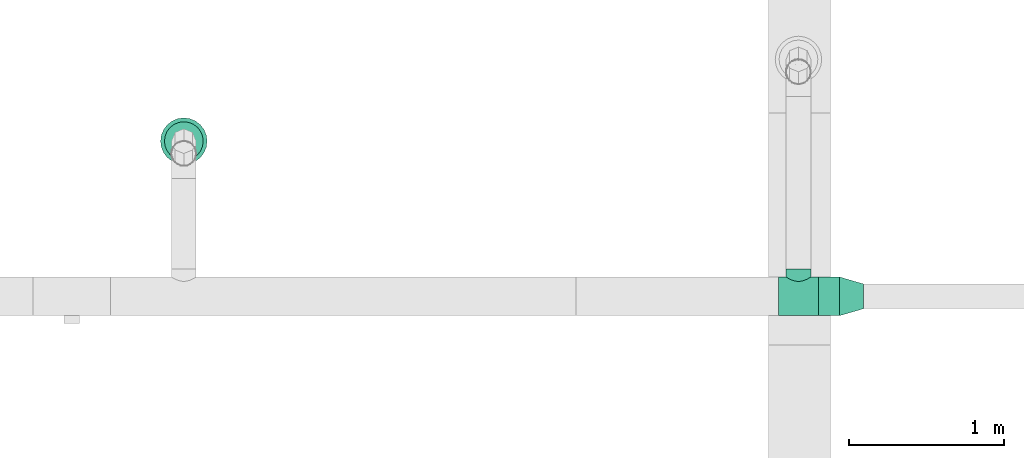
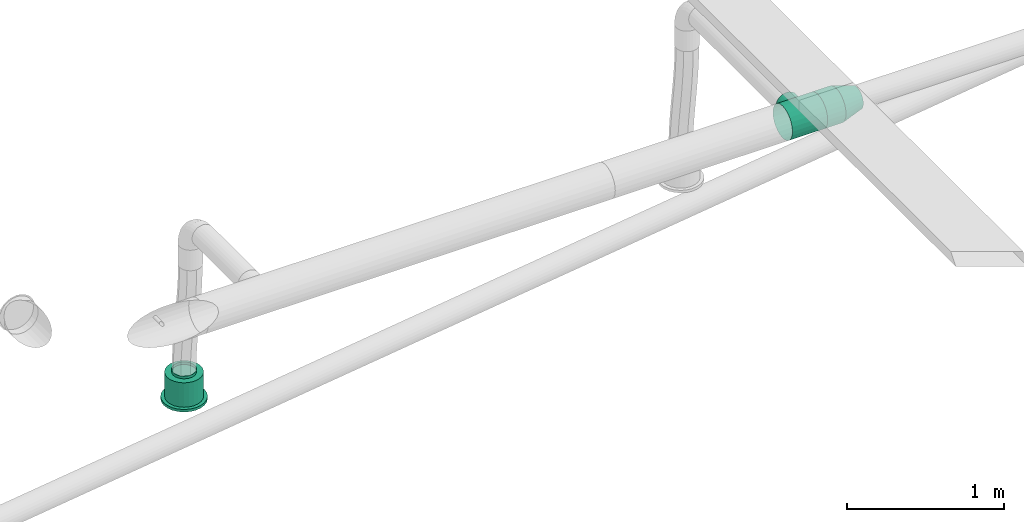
# One storey, part 179 of 374: 2 flow fittings, 1 flow segment, 1 flow terminal.
"""IFC2X3 building model written with IfcOpenShell, lengths in metres."""

from ifc_helpers import new_model, si_unit, direction, origin, place, context, subcontext, project, spatial, open_shell, surface_model, source, transform, mapped, element, save


model = new_model("IFC2X3")

# Units and contexts
model_context = context("Model", 3, precision=1e-05, world=origin(), true_north=direction((-0.4480736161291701, 0.8939966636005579)))
body_context = subcontext(model_context, "Body", "Model", "MODEL_VIEW")
ifc_project = project(units=[si_unit("LENGTHUNIT", "METRE"), si_unit("AREAUNIT", "SQUARE_METRE"), si_unit("VOLUMEUNIT", "CUBIC_METRE"), si_unit("PLANEANGLEUNIT", "RADIAN"), si_unit("THERMODYNAMICTEMPERATUREUNIT", "KELVIN"), si_unit("MASSUNIT", "GRAM", prefix="KILO"), si_unit("TIMEUNIT", "SECOND")], contexts=[model_context])

# Site, building, storey
site_placement = place(None, origin())
site = spatial("IfcSite", under=ifc_project, at=site_placement, Name="Site 1", CompositionType="ELEMENT")
building_placement = place(site_placement, origin())
building = spatial("IfcBuilding", under=site, at=building_placement, Name="Undefined", CompositionType="ELEMENT")
storey_placement = place(building_placement, origin())
storey = spatial("IfcBuildingStorey", under=building, at=storey_placement, Name="Rez de chauss\x8ee", CompositionType="ELEMENT", Elevation=0.0)

# Flow terminal
shared_shape_1 = source(origin(), body_context, "Body", "SurfaceModel", [
    surface_model("IfcFaceBasedSurfaceModel", [(0.0, 0.0, 0.0), (0.03915785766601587, 0.0, 0.0), (0.03915785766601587, 0.020000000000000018, 0.0), (3.552713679e-15, 0.020000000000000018, 0.0), (0.07698144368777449, 0.0, -0.010134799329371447), (0.07698144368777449, 0.020000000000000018, -0.010134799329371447), (0.11089314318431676, 0.0, -0.02971372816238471), (0.11089314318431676, 0.020000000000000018, -0.02971372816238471), (0.13858192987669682, 0.0, -0.05740251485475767), (0.13858192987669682, 0.020000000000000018, -0.05740251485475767), (0.15816085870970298, 0.0, -0.09131421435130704), (0.15816085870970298, 0.020000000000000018, -0.09131421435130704), (0.16829565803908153, 0.0, -0.12913780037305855), (0.16829565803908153, 0.020000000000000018, -0.12913780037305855), (0.16829565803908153, 0.0, -0.16829565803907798), (0.16829565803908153, 0.020000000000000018, -0.16829565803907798), (0.15816085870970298, 0.0, -0.20611924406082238), (0.15816085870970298, 0.020000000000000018, -0.20611924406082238), (0.13858192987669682, 0.0, -0.24003094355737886), (0.13858192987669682, 0.020000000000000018, -0.24003094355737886), (0.11089314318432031, 0.0, -0.2677197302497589), (0.11089314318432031, 0.020000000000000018, -0.2677197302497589), (0.07698144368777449, 0.0, -0.2872986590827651), (0.07698144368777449, 0.020000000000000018, -0.2872986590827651), (0.039157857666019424, 0.0, -0.29743345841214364), (0.039157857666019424, 0.020000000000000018, -0.29743345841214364), (3.552713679e-15, 0.0, -0.29743345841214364), (3.552713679e-15, 0.020000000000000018, -0.29743345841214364), (-0.03782358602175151, 0.0, -0.2872986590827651), (-0.03782358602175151, 0.020000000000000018, -0.2872986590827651), (-0.07173528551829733, 0.0, -0.2677197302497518), (-0.07173528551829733, 0.020000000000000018, -0.2677197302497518), (-0.0994240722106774, 0.0, -0.24003094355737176), (-0.0994240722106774, 0.020000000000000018, -0.24003094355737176), (-0.11900300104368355, 0.0, -0.2061192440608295), (-0.11900300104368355, 0.020000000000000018, -0.2061192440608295), (-0.1291378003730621, 0.0, -0.16829565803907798), (-0.1291378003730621, 0.020000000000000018, -0.16829565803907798), (-0.1291378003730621, 0.0, -0.12913780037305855), (-0.1291378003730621, 0.020000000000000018, -0.12913780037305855), (-0.11900300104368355, 0.0, -0.09131421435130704), (-0.11900300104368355, 0.020000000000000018, -0.09131421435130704), (-0.0994240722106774, 0.0, -0.05740251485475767), (-0.0994240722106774, 0.020000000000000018, -0.05740251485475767), (-0.07173528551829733, 0.0, -0.029713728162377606), (-0.07173528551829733, 0.020000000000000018, -0.029713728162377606), (-0.03782358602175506, 0.0, -0.010134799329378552), (-0.03782358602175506, 0.020000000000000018, -0.010134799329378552), (0.019578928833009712, 0.0, -0.14871672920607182), (0.019578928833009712, 0.020000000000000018, -0.14871672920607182), (0.003263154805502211, 0.020000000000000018, -0.02478612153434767), (0.035894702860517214, 0.020000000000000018, -0.02478612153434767), (0.035894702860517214, 0.20999999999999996, -0.02478612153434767), (0.003263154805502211, 0.20999999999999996, -0.02478612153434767), (0.06741435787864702, 0.020000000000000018, -0.033231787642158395), (0.06741435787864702, 0.20999999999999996, -0.033231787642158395), (0.0956741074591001, 0.020000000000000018, -0.04954756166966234), (0.0956741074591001, 0.20999999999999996, -0.04954756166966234), (0.11874809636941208, 0.020000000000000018, -0.07262155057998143), (0.11874809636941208, 0.20999999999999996, -0.07262155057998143), (0.13506387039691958, 0.020000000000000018, -0.10088130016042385), (0.13506387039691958, 0.20999999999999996, -0.10088130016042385), (0.1435095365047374, 0.020000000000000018, -0.13240095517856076), (0.1435095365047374, 0.20999999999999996, -0.13240095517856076), (0.1435095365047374, 0.020000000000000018, -0.16503250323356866), (0.1435095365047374, 0.20999999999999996, -0.16503250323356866), (0.13506387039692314, 0.020000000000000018, -0.19655215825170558), (0.13506387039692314, 0.20999999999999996, -0.19655215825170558), (0.11874809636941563, 0.020000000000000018, -0.2248119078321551), (0.11874809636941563, 0.20999999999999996, -0.2248119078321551), (0.09567410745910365, 0.020000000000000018, -0.24788589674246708), (0.09567410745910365, 0.20999999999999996, -0.24788589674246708), (0.06741435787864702, 0.020000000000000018, -0.26420167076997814), (0.06741435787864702, 0.20999999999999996, -0.26420167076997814), (0.035894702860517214, 0.020000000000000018, -0.27264733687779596), (0.035894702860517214, 0.20999999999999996, -0.27264733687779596), (0.0032631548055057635, 0.020000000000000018, -0.27264733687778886), (0.0032631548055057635, 0.20999999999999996, -0.27264733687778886), (-0.028256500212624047, 0.020000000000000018, -0.26420167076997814), (-0.028256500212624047, 0.20999999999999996, -0.26420167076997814), (-0.05651624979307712, 0.020000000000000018, -0.2478858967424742), (-0.05651624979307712, 0.20999999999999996, -0.2478858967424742), (-0.07959023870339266, 0.020000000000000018, -0.2248119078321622), (-0.07959023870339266, 0.20999999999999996, -0.2248119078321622), (-0.09590601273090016, 0.020000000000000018, -0.19655215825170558), (-0.09590601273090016, 0.20999999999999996, -0.19655215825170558), (-0.10435167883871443, 0.020000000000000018, -0.16503250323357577), (-0.10435167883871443, 0.20999999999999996, -0.16503250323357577), (-0.10435167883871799, 0.020000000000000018, -0.13240095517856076), (-0.10435167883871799, 0.20999999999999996, -0.13240095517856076), (-0.09590601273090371, 0.020000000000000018, -0.10088130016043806), (-0.09590601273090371, 0.20999999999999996, -0.10088130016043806), (-0.07959023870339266, 0.020000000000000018, -0.07262155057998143), (-0.07959023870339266, 0.20999999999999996, -0.07262155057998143), (-0.056516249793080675, 0.020000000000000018, -0.04954756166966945), (-0.056516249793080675, 0.20999999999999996, -0.04954756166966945), (-0.028256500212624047, 0.020000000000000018, -0.033231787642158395), (-0.028256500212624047, 0.20999999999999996, -0.033231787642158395), (0.019578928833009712, 0.20999999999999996, -0.14871672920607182), (0.009136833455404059, 0.20999999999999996, -0.06940114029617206), (0.030021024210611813, 0.20999999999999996, -0.06940114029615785), (0.030021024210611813, 0.22999999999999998, -0.06940114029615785), (0.009136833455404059, 0.22999999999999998, -0.06940114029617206), (0.05019360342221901, 0.20999999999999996, -0.07480636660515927), (0.05019360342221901, 0.22999999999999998, -0.07480636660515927), (0.06827984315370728, 0.20999999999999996, -0.08524846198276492), (0.06827984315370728, 0.22999999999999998, -0.08524846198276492), (0.0830471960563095, 0.20999999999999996, -0.10001581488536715), (0.0830471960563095, 0.22999999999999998, -0.10001581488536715), (0.0934892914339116, 0.20999999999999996, -0.11810205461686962), (0.0934892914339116, 0.22999999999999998, -0.11810205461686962), (0.09889451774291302, 0.20999999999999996, -0.13827463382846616), (0.09889451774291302, 0.22999999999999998, -0.13827463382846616), (0.09889451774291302, 0.20999999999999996, -0.15915882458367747), (0.09889451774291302, 0.22999999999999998, -0.15915882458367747), (0.09348929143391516, 0.20999999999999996, -0.179331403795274), (0.09348929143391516, 0.22999999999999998, -0.179331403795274), (0.0830471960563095, 0.20999999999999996, -0.19741764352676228), (0.0830471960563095, 0.22999999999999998, -0.19741764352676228), (0.06827984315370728, 0.20999999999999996, -0.2121849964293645), (0.06827984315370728, 0.22999999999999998, -0.2121849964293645), (0.05019360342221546, 0.20999999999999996, -0.22262709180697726), (0.05019360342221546, 0.22999999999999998, -0.22262709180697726), (0.030021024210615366, 0.20999999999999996, -0.22803231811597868), (0.030021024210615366, 0.22999999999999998, -0.22803231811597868), (0.009136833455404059, 0.20999999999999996, -0.22803231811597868), (0.009136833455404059, 0.22999999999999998, -0.22803231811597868), (-0.011035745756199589, 0.20999999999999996, -0.22262709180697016), (-0.011035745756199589, 0.22999999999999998, -0.22262709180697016), (-0.0291219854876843, 0.20999999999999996, -0.2121849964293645), (-0.0291219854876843, 0.22999999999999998, -0.2121849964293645), (-0.043889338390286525, 0.20999999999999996, -0.19741764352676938), (-0.043889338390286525, 0.22999999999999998, -0.19741764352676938), (-0.05433143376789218, 0.20999999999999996, -0.17933140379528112), (-0.05433143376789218, 0.22999999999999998, -0.17933140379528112), (-0.05973666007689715, 0.20999999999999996, -0.15915882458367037), (-0.05973666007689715, 0.22999999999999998, -0.15915882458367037), (-0.0597366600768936, 0.20999999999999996, -0.13827463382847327), (-0.0597366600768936, 0.22999999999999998, -0.13827463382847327), (-0.05433143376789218, 0.20999999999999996, -0.11810205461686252), (-0.05433143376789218, 0.22999999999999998, -0.11810205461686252), (-0.043889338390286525, 0.20999999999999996, -0.10001581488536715), (-0.043889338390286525, 0.22999999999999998, -0.10001581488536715), (-0.02912198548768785, 0.20999999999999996, -0.08524846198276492), (-0.02912198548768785, 0.22999999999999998, -0.08524846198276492), (-0.011035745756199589, 0.20999999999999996, -0.07480636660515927), (-0.011035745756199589, 0.22999999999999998, -0.07480636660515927)], [open_shell([[[0, 1, 2, 3]], [[1, 4, 5, 2]], [[4, 6, 7, 5]], [[6, 8, 9, 7]], [[8, 10, 11, 9]], [[10, 12, 13, 11]], [[12, 14, 15, 13]], [[14, 16, 17, 15]], [[16, 18, 19, 17]], [[18, 20, 21, 19]], [[20, 22, 23, 21]], [[22, 24, 25, 23]], [[24, 26, 27, 25]], [[26, 28, 29, 27]], [[28, 30, 31, 29]], [[30, 32, 33, 31]], [[32, 34, 35, 33]], [[34, 36, 37, 35]], [[36, 38, 39, 37]], [[38, 40, 41, 39]], [[40, 42, 43, 41]], [[42, 44, 45, 43]], [[44, 46, 47, 45]], [[46, 0, 3, 47]], [[48, 1, 0]], [[48, 4, 1]], [[48, 6, 4]], [[48, 8, 6]], [[48, 10, 8]], [[48, 12, 10]], [[48, 14, 12]], [[48, 16, 14]], [[48, 18, 16]], [[48, 20, 18]], [[48, 22, 20]], [[48, 24, 22]], [[48, 26, 24]], [[48, 28, 26]], [[48, 30, 28]], [[48, 32, 30]], [[48, 34, 32]], [[48, 36, 34]], [[48, 38, 36]], [[48, 40, 38]], [[48, 42, 40]], [[48, 44, 42]], [[48, 46, 44]], [[48, 0, 46]], [[49, 47, 3]], [[49, 45, 47]], [[49, 43, 45]], [[49, 41, 43]], [[49, 39, 41]], [[49, 37, 39]], [[49, 35, 37]], [[49, 33, 35]], [[49, 31, 33]], [[49, 29, 31]], [[49, 27, 29]], [[49, 25, 27]], [[49, 23, 25]], [[49, 21, 23]], [[49, 19, 21]], [[49, 17, 19]], [[49, 15, 17]], [[49, 13, 15]], [[49, 11, 13]], [[49, 9, 11]], [[49, 7, 9]], [[49, 5, 7]], [[49, 2, 5]], [[49, 3, 2]], [[50, 51, 52, 53]], [[51, 54, 55, 52]], [[54, 56, 57, 55]], [[56, 58, 59, 57]], [[58, 60, 61, 59]], [[60, 62, 63, 61]], [[62, 64, 65, 63]], [[64, 66, 67, 65]], [[66, 68, 69, 67]], [[68, 70, 71, 69]], [[70, 72, 73, 71]], [[72, 74, 75, 73]], [[74, 76, 77, 75]], [[76, 78, 79, 77]], [[78, 80, 81, 79]], [[80, 82, 83, 81]], [[82, 84, 85, 83]], [[84, 86, 87, 85]], [[86, 88, 89, 87]], [[88, 90, 91, 89]], [[90, 92, 93, 91]], [[92, 94, 95, 93]], [[94, 96, 97, 95]], [[96, 50, 53, 97]], [[49, 51, 50]], [[49, 54, 51]], [[49, 56, 54]], [[49, 58, 56]], [[49, 60, 58]], [[49, 62, 60]], [[49, 64, 62]], [[49, 66, 64]], [[49, 68, 66]], [[49, 70, 68]], [[49, 72, 70]], [[49, 74, 72]], [[49, 76, 74]], [[49, 78, 76]], [[49, 80, 78]], [[49, 82, 80]], [[49, 84, 82]], [[49, 86, 84]], [[49, 88, 86]], [[49, 90, 88]], [[49, 92, 90]], [[49, 94, 92]], [[49, 96, 94]], [[49, 50, 96]], [[98, 97, 53]], [[98, 95, 97]], [[98, 93, 95]], [[98, 91, 93]], [[98, 89, 91]], [[98, 87, 89]], [[98, 85, 87]], [[98, 83, 85]], [[98, 81, 83]], [[98, 79, 81]], [[98, 77, 79]], [[98, 75, 77]], [[98, 73, 75]], [[98, 71, 73]], [[98, 69, 71]], [[98, 67, 69]], [[98, 65, 67]], [[98, 63, 65]], [[98, 61, 63]], [[98, 59, 61]], [[98, 57, 59]], [[98, 55, 57]], [[98, 52, 55]], [[98, 53, 52]], [[99, 100, 101, 102]], [[100, 103, 104, 101]], [[103, 105, 106, 104]], [[105, 107, 108, 106]], [[107, 109, 110, 108]], [[109, 111, 112, 110]], [[111, 113, 114, 112]], [[113, 115, 116, 114]], [[115, 117, 118, 116]], [[117, 119, 120, 118]], [[119, 121, 122, 120]], [[121, 123, 124, 122]], [[123, 125, 126, 124]], [[125, 127, 128, 126]], [[127, 129, 130, 128]], [[129, 131, 132, 130]], [[131, 133, 134, 132]], [[133, 135, 136, 134]], [[135, 137, 138, 136]], [[137, 139, 140, 138]], [[139, 141, 142, 140]], [[141, 143, 144, 142]], [[143, 145, 146, 144]], [[145, 99, 102, 146]]])]),
])
flow_terminal_placement = place(storey_placement, origin())
element("IfcFlowTerminal", 1, at=flow_terminal_placement, inside=storey, Name="Air diffuseur - bouche", ObjectType="Air diffuseur - bouche", context=body_context, shape_type="MappedRepresentation", body=[
    mapped(shared_shape_1, transform((53.396610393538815, 23.508886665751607, 2.38), x_axis=(0.9914448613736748, 0.13052619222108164, 0.0), y_axis=(0.0, 0.0, 1.0), z_axis=(0.13052619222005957, -0.9914448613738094, 0.0))),
])

# Flow segment
shared_shape_2 = source(origin(), body_context, "Body", "SurfaceModel", [
    surface_model("IfcFaceBasedSurfaceModel", [(0.0, 0.03263154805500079, 0.0), (0.0, 0.0, 0.0), (0.13500000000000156, -7.105427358e-15, 8.8817842e-16), (0.13500000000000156, 0.03263154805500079, 8.8817842e-16), (0.0, -0.031519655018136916, -0.008445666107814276), (0.13500000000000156, -0.03151965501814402, -0.008445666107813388), (0.0, -0.05977940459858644, -0.024761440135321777), (0.13500000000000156, -0.05977940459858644, -0.02476144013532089), (0.0, -0.08285339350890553, -0.047835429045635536), (0.13500000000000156, -0.08285339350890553, -0.04783542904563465), (0.0, -0.09916916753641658, -0.07609517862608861), (0.13500000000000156, -0.09916916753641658, -0.07609517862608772), (0.0, -0.1076148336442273, -0.10761483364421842), (0.13500000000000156, -0.10761483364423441, -0.10761483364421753), (0.0, -0.1076148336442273, -0.14024638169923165), (0.13500000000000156, -0.1076148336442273, -0.14024638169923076), (0.0, -0.09916916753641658, -0.17176603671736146), (0.13500000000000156, -0.09916916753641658, -0.17176603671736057), (0.0, -0.08285339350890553, -0.2000257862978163), (0.13500000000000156, -0.08285339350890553, -0.20002578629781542), (0.0, -0.059779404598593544, -0.22309977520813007), (0.13500000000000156, -0.05977940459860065, -0.2230997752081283), (0.0, -0.03151965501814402, -0.23941554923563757), (0.13500000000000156, -0.03151965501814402, -0.23941554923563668), (0.0, -1.4210854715e-14, -0.24786121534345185), (0.13500000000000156, -1.4210854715e-14, -0.24786121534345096), (0.0, 0.03263154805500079, -0.24786121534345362), (0.13500000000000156, 0.03263154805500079, -0.24786121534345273), (0.0, 0.0641512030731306, -0.23941554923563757), (0.13500000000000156, 0.0641512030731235, -0.23941554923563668), (0.0, 0.09241095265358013, -0.22309977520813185), (0.13500000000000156, 0.09241095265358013, -0.22309977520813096), (0.0, 0.11548494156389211, -0.2000257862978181), (0.13500000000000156, 0.11548494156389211, -0.2000257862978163), (0.0, 0.13180071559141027, -0.171766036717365), (0.13500000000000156, 0.13180071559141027, -0.17176603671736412), (0.0, 0.140246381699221, -0.1402463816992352), (0.13500000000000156, 0.14024638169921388, -0.14024638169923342), (0.0, 0.140246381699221, -0.10761483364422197), (0.13500000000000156, 0.140246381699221, -0.10761483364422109), (0.0, 0.13180071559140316, -0.07609517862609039), (0.13500000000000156, 0.13180071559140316, -0.07609517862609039), (0.0, 0.11548494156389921, -0.04783542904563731), (0.13500000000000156, 0.11548494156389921, -0.047835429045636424), (0.0, 0.09241095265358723, -0.024761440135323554), (0.13500000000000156, 0.09241095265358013, -0.024761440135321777), (0.0, 0.06415120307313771, -0.008445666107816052), (0.13500000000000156, 0.06415120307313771, -0.008445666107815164)], [open_shell([[[0, 1, 2, 3]], [[1, 4, 5, 2]], [[4, 6, 7, 5]], [[6, 8, 9, 7]], [[8, 10, 11, 9]], [[10, 12, 13, 11]], [[12, 14, 15, 13]], [[14, 16, 17, 15]], [[16, 18, 19, 17]], [[18, 20, 21, 19]], [[20, 22, 23, 21]], [[22, 24, 25, 23]], [[24, 26, 27, 25]], [[26, 28, 29, 27]], [[28, 30, 31, 29]], [[30, 32, 33, 31]], [[32, 34, 35, 33]], [[34, 36, 37, 35]], [[36, 38, 39, 37]], [[38, 40, 41, 39]], [[40, 42, 43, 41]], [[42, 44, 45, 43]], [[44, 46, 47, 45]], [[46, 0, 3, 47]]])]),
])
flow_segment_placement = place(storey_placement, origin())
element("IfcFlowSegment", 2, at=flow_segment_placement, inside=storey, Name="Manchon", ObjectType="Manchon", context=body_context, shape_type="MappedRepresentation", body=[
    mapped(shared_shape_2, transform((57.49100041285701, 22.625523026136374, 3.920740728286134), x_axis=(1.0, 0.0, 0.0), y_axis=(0.0, 0.9914448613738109, 0.1305261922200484), z_axis=(0.0, -0.1305261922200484, 0.9914448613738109))),
])

# Flow fittings
shared_shape_3 = source(origin(), body_context, "Body", "SurfaceModel", [
    surface_model("IfcFaceBasedSurfaceModel", [(0.0, 0.03263154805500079, 0.0), (0.0, 0.0, 0.0), (0.2599999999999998, -7.105427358e-15, 0.0), (0.2599999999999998, 0.03263154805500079, 0.0), (0.0, -0.031519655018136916, -0.008445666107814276), (0.2599999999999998, -0.031519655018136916, -0.008445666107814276), (0.0, -0.05977940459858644, -0.024761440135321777), (0.2599999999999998, -0.05977940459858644, -0.024761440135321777), (0.0, -0.08285339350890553, -0.047835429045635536), (0.2599999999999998, -0.08285339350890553, -0.047835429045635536), (0.0, -0.09916916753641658, -0.07609517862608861), (0.2599999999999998, -0.09916916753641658, -0.07609517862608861), (0.0, -0.1076148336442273, -0.10761483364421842), (0.2599999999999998, -0.1076148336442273, -0.10761483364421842), (0.0, -0.1076148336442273, -0.14024638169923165), (0.2599999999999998, -0.1076148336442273, -0.14024638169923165), (0.0, -0.09916916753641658, -0.17176603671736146), (0.2599999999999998, -0.09916916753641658, -0.17176603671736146), (0.0, -0.08285339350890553, -0.2000257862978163), (0.2599999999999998, -0.08285339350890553, -0.2000257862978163), (0.0, -0.059779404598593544, -0.22309977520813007), (0.2599999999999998, -0.059779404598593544, -0.22309977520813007), (0.0, -0.03151965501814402, -0.23941554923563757), (0.2599999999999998, -0.03151965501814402, -0.23941554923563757), (0.0, -1.4210854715e-14, -0.24786121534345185), (0.2599999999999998, -1.4210854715e-14, -0.24786121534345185), (0.0, 0.03263154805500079, -0.24786121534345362), (0.2599999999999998, 0.03263154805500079, -0.24786121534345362), (0.0, 0.0641512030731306, -0.23941554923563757), (0.2599999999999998, 0.0641512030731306, -0.23941554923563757), (0.0, 0.09241095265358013, -0.22309977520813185), (0.2599999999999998, 0.09241095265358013, -0.22309977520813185), (0.0, 0.11548494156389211, -0.2000257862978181), (0.2599999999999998, 0.11548494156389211, -0.2000257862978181), (0.0, 0.13180071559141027, -0.171766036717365), (0.2599999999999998, 0.13180071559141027, -0.171766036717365), (0.0, 0.140246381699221, -0.1402463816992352), (0.2599999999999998, 0.140246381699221, -0.1402463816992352), (0.0, 0.140246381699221, -0.10761483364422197), (0.2599999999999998, 0.140246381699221, -0.10761483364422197), (0.0, 0.13180071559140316, -0.07609517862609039), (0.2599999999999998, 0.13180071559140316, -0.07609517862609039), (0.0, 0.11548494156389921, -0.04783542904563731), (0.2599999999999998, 0.11548494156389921, -0.04783542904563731), (0.0, 0.09241095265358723, -0.024761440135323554), (0.2599999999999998, 0.09241095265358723, -0.024761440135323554), (0.0, 0.06415120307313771, -0.008445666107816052), (0.2599999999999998, 0.06415120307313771, -0.008445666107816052), (0.20999999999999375, 0.14024638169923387, -0.14024638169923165), (0.2072740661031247, 0.1358317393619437, -0.1605493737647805), (0.2072740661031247, 0.18711601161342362, -0.16730107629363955), (0.20999999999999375, 0.18981862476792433, -0.14677269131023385), (0.19928203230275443, 0.12850875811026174, -0.17904625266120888), (0.19928203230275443, 0.1845975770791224, -0.1864304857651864), (0.18656854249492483, 0.11944596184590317, -0.19456462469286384), (0.18656854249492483, 0.1824349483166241, -0.20285728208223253), (0.1699999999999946, 0.11042580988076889, -0.20620029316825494), (0.1699999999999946, 0.1807755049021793, -0.2154620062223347), (0.15070552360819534, 0.10364225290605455, -0.2133682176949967), (0.15070552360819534, 0.1797323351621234, -0.22338566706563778), (0.12999999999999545, 0.10109884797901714, -0.21578282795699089), (0.12999999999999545, 0.17937652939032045, -0.22608828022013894), (0.10929447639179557, 0.10364225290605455, -0.2133682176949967), (0.10929447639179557, 0.1797323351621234, -0.22338566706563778), (0.0899999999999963, 0.11042580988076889, -0.20620029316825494), (0.0899999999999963, 0.1807755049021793, -0.2154620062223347), (0.07343145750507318, 0.11944596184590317, -0.19456462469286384), (0.07343145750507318, 0.1824349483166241, -0.20285728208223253), (0.06071796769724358, 0.12850875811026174, -0.17904625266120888), (0.06071796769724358, 0.1845975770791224, -0.1864304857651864), (0.052725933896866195, 0.1358317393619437, -0.1605493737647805), (0.052725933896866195, 0.18711601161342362, -0.16730107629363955), (0.04999999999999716, 0.14024638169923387, -0.14024638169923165), (0.04999999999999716, 0.18981862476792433, -0.14677269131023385), (0.052725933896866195, 0.14123696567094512, -0.11949260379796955), (0.052725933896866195, 0.19252123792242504, -0.12624430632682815), (0.06071796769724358, 0.13895085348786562, -0.09973066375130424), (0.06071796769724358, 0.19503967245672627, -0.10711489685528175), (0.07343145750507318, 0.13421331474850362, -0.08239544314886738), (0.07343145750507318, 0.19720230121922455, -0.09068810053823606), (0.0899999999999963, 0.12851204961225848, -0.06882166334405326), (0.0899999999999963, 0.1988617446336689, -0.07808337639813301), (0.10929447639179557, 0.12381483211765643, -0.060142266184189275), (0.10929447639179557, 0.19990491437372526, -0.07015971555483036), (0.12999999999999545, 0.12198303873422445, -0.057151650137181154), (0.12999999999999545, 0.20026072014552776, -0.0674571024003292), (0.15070552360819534, 0.12381483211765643, -0.060142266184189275), (0.15070552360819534, 0.19990491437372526, -0.07015971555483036), (0.1699999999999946, 0.12851204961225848, -0.06882166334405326), (0.1699999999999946, 0.1988617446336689, -0.07808337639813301), (0.18656854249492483, 0.13421331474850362, -0.08239544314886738), (0.18656854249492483, 0.19720230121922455, -0.09068810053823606), (0.19928203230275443, 0.13895085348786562, -0.09973066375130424), (0.19928203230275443, 0.19503967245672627, -0.10711489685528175), (0.2072740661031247, 0.14123696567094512, -0.11949260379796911), (0.2072740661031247, 0.19252123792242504, -0.12624430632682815)], [open_shell([[[0, 1, 2, 3]], [[1, 4, 5, 2]], [[4, 6, 7, 5]], [[6, 8, 9, 7]], [[8, 10, 11, 9]], [[10, 12, 13, 11]], [[12, 14, 15, 13]], [[14, 16, 17, 15]], [[16, 18, 19, 17]], [[18, 20, 21, 19]], [[20, 22, 23, 21]], [[22, 24, 25, 23]], [[24, 26, 27, 25]], [[26, 28, 29, 27]], [[28, 30, 31, 29]], [[30, 32, 33, 31]], [[32, 34, 35, 33]], [[34, 36, 37, 35]], [[36, 38, 39, 37]], [[38, 40, 41, 39]], [[40, 42, 43, 41]], [[42, 44, 45, 43]], [[44, 46, 47, 45]], [[46, 0, 3, 47]], [[48, 49, 50, 51]], [[49, 52, 53, 50]], [[52, 54, 55, 53]], [[54, 56, 57, 55]], [[56, 58, 59, 57]], [[58, 60, 61, 59]], [[60, 62, 63, 61]], [[62, 64, 65, 63]], [[64, 66, 67, 65]], [[66, 68, 69, 67]], [[68, 70, 71, 69]], [[70, 72, 73, 71]], [[72, 74, 75, 73]], [[74, 76, 77, 75]], [[76, 78, 79, 77]], [[78, 80, 81, 79]], [[80, 82, 83, 81]], [[82, 84, 85, 83]], [[84, 86, 87, 85]], [[86, 88, 89, 87]], [[88, 90, 91, 89]], [[90, 92, 93, 91]], [[92, 94, 95, 93]], [[94, 48, 51, 95]]])]),
])
flow_fitting_1_placement = place(storey_placement, origin())
element("IfcFlowFitting", 3, at=flow_fitting_1_placement, inside=storey, Name="Pièce en té 90°", ObjectType="Pièce en té 90°", context=body_context, shape_type="MappedRepresentation", body=[
    mapped(shared_shape_3, transform((57.49100041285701, 22.625523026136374, 3.679259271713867), x_axis=(-1.0, 0.0, 0.0), y_axis=(0.0, 0.9914448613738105, -0.13052619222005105), z_axis=(9.56658874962e-13, -0.13052619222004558, -0.9914448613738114))),
])
shared_shape_4 = source(origin(), body_context, "Body", "SurfaceModel", [
    surface_model("IfcFaceBasedSurfaceModel", [(0.001194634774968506, 0.0326096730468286, -1.776356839e-15), (0.0, 0.0, 0.0), (0.1604400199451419, 2.22044605e-16, 1.776356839e-15), (0.16120458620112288, 0.020870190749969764, 3.552713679e-15), (0.001194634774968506, -0.03158456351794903, -0.008112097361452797), (0.16120458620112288, -0.020214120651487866, -0.0051917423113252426), (0.0046971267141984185, -0.05999158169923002, -0.023783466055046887), (0.1634461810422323, -0.038394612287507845, -0.015221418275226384), (0.010268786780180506, -0.08328516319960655, -0.045946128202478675), (0.16701204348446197, -0.05330250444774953, -0.0294055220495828), (0.017529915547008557, -0.09987788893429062, -0.07308973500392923), (0.17165916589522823, -0.0639218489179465, -0.04677743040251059), (0.02598567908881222, -0.10863899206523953, -0.10336449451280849), (0.17707085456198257, -0.06952895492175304, -0.06615327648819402), (0.03505983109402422, -0.10897141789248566, -0.13470723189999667), (0.18287831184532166, -0.06974170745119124, -0.08621262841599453), (0.04413398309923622, -0.10085251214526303, -0.16498199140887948), (0.18868576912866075, -0.06454560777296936, -0.10558847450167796), (0.05258974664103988, -0.08483556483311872, -0.19212559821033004), (0.194097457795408, -0.054294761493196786, -0.12296038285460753), (0.05985087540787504, -0.06201210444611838, -0.21428826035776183), (0.19874458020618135, -0.039687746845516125, -0.13714448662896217), (0.06542253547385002, -0.03393751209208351, -0.22995962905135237), (0.20231044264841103, -0.02172000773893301, -0.14717416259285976), (0.06892502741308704, -0.0025250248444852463, -0.23807172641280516), (0.20455203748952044, -0.0016160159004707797, -0.15236590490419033), (0.07011966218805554, 0.030084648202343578, -0.23807172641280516), (0.20531660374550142, 0.01925417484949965, -0.15236590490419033), (0.06892502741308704, 0.06166921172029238, -0.22995962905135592), (0.20455203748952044, 0.03946829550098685, -0.1471741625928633), (0.06542253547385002, 0.09007622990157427, -0.21428826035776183), (0.20231044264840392, 0.05764878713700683, -0.13714448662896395), (0.05985087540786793, 0.11336981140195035, -0.19212559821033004), (0.19874458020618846, 0.07255667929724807, -0.12296038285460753), (0.05258974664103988, 0.12996253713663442, -0.16498199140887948), (0.1940974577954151, 0.08317602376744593, -0.10558847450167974), (0.04413398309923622, 0.13872364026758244, -0.13470723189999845), (0.18868576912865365, 0.08878312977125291, -0.08621262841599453), (0.03505983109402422, 0.13905606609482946, -0.10336449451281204), (0.18287831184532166, 0.08899588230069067, -0.0661532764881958), (0.02598567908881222, 0.13093716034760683, -0.07308973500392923), (0.17707085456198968, 0.0837997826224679, -0.046777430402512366), (0.017529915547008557, 0.11492021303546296, -0.045946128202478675), (0.17165916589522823, 0.07354893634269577, -0.0294055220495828), (0.010268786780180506, 0.09209675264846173, -0.023783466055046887), (0.16701204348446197, 0.05894192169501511, -0.015221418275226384), (0.0046971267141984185, 0.06402216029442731, -0.008112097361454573), (0.1634461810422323, 0.040974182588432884, -0.005191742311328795)], [open_shell([[[0, 1, 2, 3]], [[1, 4, 5, 2]], [[4, 6, 7, 5]], [[6, 8, 9, 7]], [[8, 10, 11, 9]], [[10, 12, 13, 11]], [[12, 14, 15, 13]], [[14, 16, 17, 15]], [[16, 18, 19, 17]], [[18, 20, 21, 19]], [[20, 22, 23, 21]], [[22, 24, 25, 23]], [[24, 26, 27, 25]], [[26, 28, 29, 27]], [[28, 30, 31, 29]], [[30, 32, 33, 31]], [[32, 34, 35, 33]], [[34, 36, 37, 35]], [[36, 38, 39, 37]], [[38, 40, 41, 39]], [[40, 42, 43, 41]], [[42, 44, 45, 43]], [[44, 46, 47, 45]], [[46, 0, 3, 47]]])]),
])
flow_fitting_2_placement = place(storey_placement, origin())
element("IfcFlowFitting", 4, at=flow_fitting_2_placement, inside=storey, Name="Réduction conique", ObjectType="Réduction conique", context=body_context, shape_type="MappedRepresentation", body=[
    mapped(shared_shape_4, transform((57.62600041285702, 22.53713467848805, 3.7676476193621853), x_axis=(0.9598602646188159, 0.27092157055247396, 0.07259321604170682), y_axis=(-0.03516387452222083, -0.1405387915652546, 0.9894505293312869), z_axis=(0.2782656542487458, -0.9522869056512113, -0.12537094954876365))),
])

save(model, "model.ifc")
